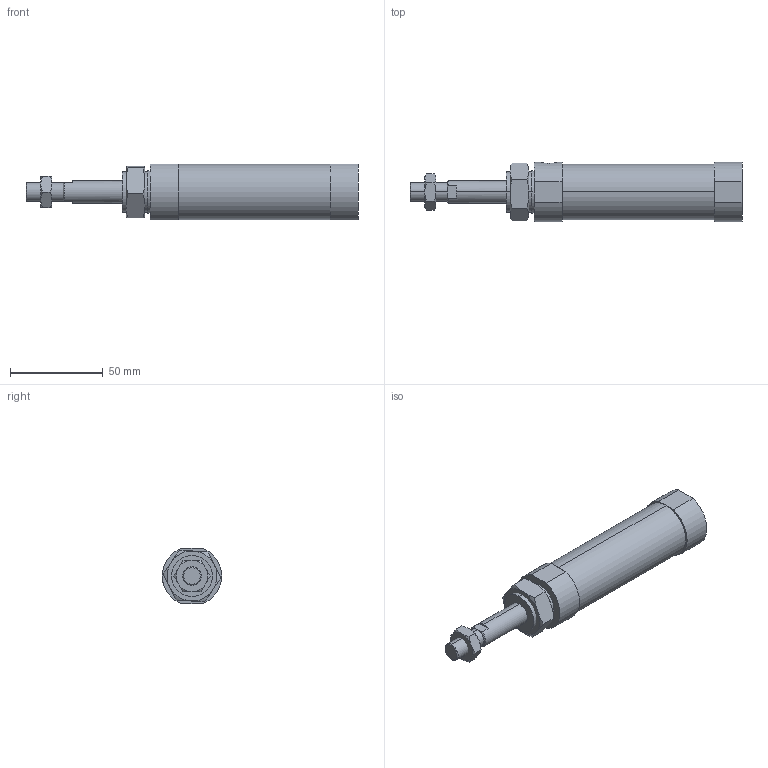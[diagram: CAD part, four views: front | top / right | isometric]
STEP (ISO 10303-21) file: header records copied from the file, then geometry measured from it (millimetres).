
FILE_DESCRIPTION (( 'STEP AP203' ), '1' );
FILE_NAME ('JGND0-25-25-N.STEP', '2016-08-04T02:09:27', ( '' ), ( '' ), 'SwSTEP 2.0', 'SolidWorks 2014', '' );
FILE_SCHEMA (( 'CONFIG_CONTROL_DESIGN' ));
Length unit declared in the file: millimetre
Products named in the file (4): JGND0-25-25-N; J#0-25-25(P)
Assembly tree (3 placements, depth 2):
  JGND0-25-25-N
    J#0-25-25(P)
    (unnamed)
    (unnamed)
Bounding box: 179 x 32 x 30 mm (x, y, z)
Volume: 95437.7 mm3; surface area: 18964.9 mm2
Topology: 3 solids, 3 shells, 85 faces, 188 edges, 111 vertices
Faces by surface type: plane 35, torus 24, cylinder 20, cone 6
Entity records: 2986 total; most frequent: CARTESIAN_POINT 762, DIRECTION 384, ORIENTED_EDGE 372, EDGE_CURVE 186, AXIS2_PLACEMENT_3D 161, VERTEX_POINT 111, EDGE_LOOP 93, FACE_OUTER_BOUND 85
